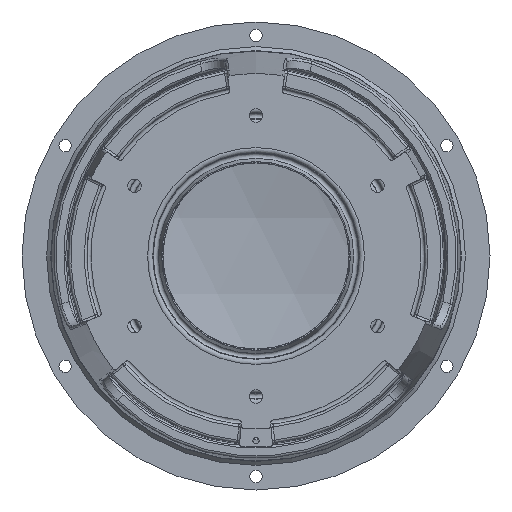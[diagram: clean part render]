
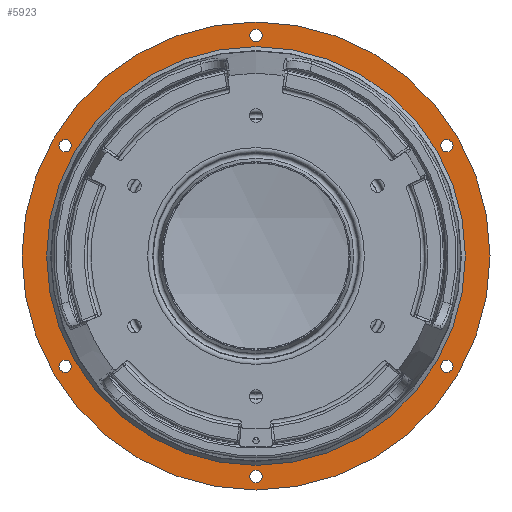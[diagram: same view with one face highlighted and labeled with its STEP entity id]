
A CAD part, front view. The second image highlights one B-rep face of the part: STEP entity #5923.
In plain terms, the highlighted planar face has unit normal (0, -1, 0).
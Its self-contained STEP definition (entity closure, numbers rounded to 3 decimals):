
#222 = CIRCLE ( 'NONE', #5616, 95. ) ;
#352 = EDGE_LOOP ( 'NONE', ( #468 ) ) ;
#468 = ORIENTED_EDGE ( 'NONE', *, *, #10245, .F. ) ;
#474 = AXIS2_PLACEMENT_3D ( 'NONE', #9182, #849, #10087 ) ;
#591 = ORIENTED_EDGE ( 'NONE', *, *, #6070, .F. ) ;
#652 = CARTESIAN_POINT ( 'NONE',  ( 0., 6.632, 92. ) ) ;
#676 = CARTESIAN_POINT ( 'NONE',  ( 77.509, 6.632, -44.75 ) ) ;
#836 = CARTESIAN_POINT ( 'NONE',  ( -77.509, 6.632, 44.75 ) ) ;
#849 = DIRECTION ( 'NONE',  ( 0., 1., 0. ) ) ;
#945 = VERTEX_POINT ( 'NONE', #11635 ) ;
#1176 = FACE_BOUND ( 'NONE', #11580, .T. ) ;
#1182 = CARTESIAN_POINT ( 'NONE',  ( 0., 6.632, 0. ) ) ;
#1219 = DIRECTION ( 'NONE',  ( 0., 1., 0. ) ) ;
#1343 = CARTESIAN_POINT ( 'NONE',  ( 77.509, 6.632, 44.75 ) ) ;
#1451 = CARTESIAN_POINT ( 'NONE',  ( 0., 6.632, 85. ) ) ;
#1583 = CIRCLE ( 'NONE', #6842, 2.5 ) ;
#1748 = DIRECTION ( 'NONE',  ( 0., 0., 1. ) ) ;
#1839 = CIRCLE ( 'NONE', #6117, 2.5 ) ;
#1855 = ORIENTED_EDGE ( 'NONE', *, *, #4478, .F. ) ;
#1880 = DIRECTION ( 'NONE',  ( 0., -1., 0. ) ) ;
#1975 = VERTEX_POINT ( 'NONE', #7706 ) ;
#2240 = EDGE_LOOP ( 'NONE', ( #5358 ) ) ;
#2254 = VERTEX_POINT ( 'NONE', #5161 ) ;
#2565 = ORIENTED_EDGE ( 'NONE', *, *, #9809, .F. ) ;
#2726 = AXIS2_PLACEMENT_3D ( 'NONE', #1343, #7755, #8703 ) ;
#2785 = ORIENTED_EDGE ( 'NONE', *, *, #7401, .F. ) ;
#2851 = DIRECTION ( 'NONE',  ( 0., -1., 0. ) ) ;
#2907 = FACE_BOUND ( 'NONE', #352, .T. ) ;
#3108 = ORIENTED_EDGE ( 'NONE', *, *, #3888, .F. ) ;
#3256 = CARTESIAN_POINT ( 'NONE',  ( 0., 6.632, -89.5 ) ) ;
#3358 = CARTESIAN_POINT ( 'NONE',  ( 77.509, 6.632, -42.25 ) ) ;
#3581 = PLANE ( 'NONE',  #474 ) ;
#3762 = EDGE_LOOP ( 'NONE', ( #3108 ) ) ;
#3888 = EDGE_CURVE ( 'NONE', #5301, #5301, #222, .T. ) ;
#4173 = DIRECTION ( 'NONE',  ( 0., 0., 1. ) ) ;
#4199 = CIRCLE ( 'NONE', #8969, 85. ) ;
#4478 = EDGE_CURVE ( 'NONE', #1975, #1975, #11571, .T. ) ;
#4628 = DIRECTION ( 'NONE',  ( 0., 0., 1. ) ) ;
#4811 = EDGE_LOOP ( 'NONE', ( #2565 ) ) ;
#4939 = CIRCLE ( 'NONE', #11729, 2.5 ) ;
#5048 = CARTESIAN_POINT ( 'NONE',  ( 0., 6.632, 95. ) ) ;
#5161 = CARTESIAN_POINT ( 'NONE',  ( 77.509, 6.632, 47.25 ) ) ;
#5292 = VERTEX_POINT ( 'NONE', #1451 ) ;
#5301 = VERTEX_POINT ( 'NONE', #5048 ) ;
#5358 = ORIENTED_EDGE ( 'NONE', *, *, #8407, .F. ) ;
#5359 = FACE_BOUND ( 'NONE', #2240, .T. ) ;
#5465 = DIRECTION ( 'NONE',  ( 0., 1., 0. ) ) ;
#5486 = CARTESIAN_POINT ( 'NONE',  ( -77.509, 6.632, -44.75 ) ) ;
#5616 = AXIS2_PLACEMENT_3D ( 'NONE', #1182, #1219, #9440 ) ;
#5776 = FACE_BOUND ( 'NONE', #11720, .T. ) ;
#5923 = ADVANCED_FACE ( 'NONE', ( #1176, #5359, #7918, #6329, #5776, #2907, #11383, #7489 ), #3581, .F. ) ;
#5981 = VERTEX_POINT ( 'NONE', #3358 ) ;
#6049 = DIRECTION ( 'NONE',  ( 0., -1., 0. ) ) ;
#6070 = EDGE_CURVE ( 'NONE', #2254, #2254, #9244, .T. ) ;
#6117 = AXIS2_PLACEMENT_3D ( 'NONE', #7378, #1880, #7419 ) ;
#6329 = FACE_BOUND ( 'NONE', #7913, .T. ) ;
#6416 = VERTEX_POINT ( 'NONE', #7022 ) ;
#6421 = CIRCLE ( 'NONE', #11451, 2.5 ) ;
#6842 = AXIS2_PLACEMENT_3D ( 'NONE', #676, #8760, #4173 ) ;
#7022 = CARTESIAN_POINT ( 'NONE',  ( -77.509, 6.632, 47.25 ) ) ;
#7378 = CARTESIAN_POINT ( 'NONE',  ( 0., 6.632, 89.5 ) ) ;
#7401 = EDGE_CURVE ( 'NONE', #6416, #6416, #4939, .T. ) ;
#7419 = DIRECTION ( 'NONE',  ( 0., 0., 1. ) ) ;
#7489 = FACE_BOUND ( 'NONE', #10246, .T. ) ;
#7706 = CARTESIAN_POINT ( 'NONE',  ( -77.509, 6.632, -42.25 ) ) ;
#7755 = DIRECTION ( 'NONE',  ( 0., -1., 0. ) ) ;
#7913 = EDGE_LOOP ( 'NONE', ( #1855 ) ) ;
#7918 = FACE_BOUND ( 'NONE', #4811, .T. ) ;
#8019 = DIRECTION ( 'NONE',  ( 0., 0., 1. ) ) ;
#8076 = EDGE_CURVE ( 'NONE', #5292, #5292, #4199, .T. ) ;
#8136 = VERTEX_POINT ( 'NONE', #652 ) ;
#8407 = EDGE_CURVE ( 'NONE', #5981, #5981, #1583, .T. ) ;
#8703 = DIRECTION ( 'NONE',  ( 0., 0., 1. ) ) ;
#8760 = DIRECTION ( 'NONE',  ( 0., -1., 0. ) ) ;
#8840 = DIRECTION ( 'NONE',  ( 0., 0., 1. ) ) ;
#8969 = AXIS2_PLACEMENT_3D ( 'NONE', #9256, #5465, #4628 ) ;
#9182 = CARTESIAN_POINT ( 'NONE',  ( -95., 6.632, 0. ) ) ;
#9244 = CIRCLE ( 'NONE', #2726, 2.5 ) ;
#9256 = CARTESIAN_POINT ( 'NONE',  ( 0., 6.632, 0. ) ) ;
#9261 = AXIS2_PLACEMENT_3D ( 'NONE', #5486, #2851, #1748 ) ;
#9440 = DIRECTION ( 'NONE',  ( 0., 0., 1. ) ) ;
#9809 = EDGE_CURVE ( 'NONE', #945, #945, #6421, .T. ) ;
#10087 = DIRECTION ( 'NONE',  ( 0., 0., 1. ) ) ;
#10245 = EDGE_CURVE ( 'NONE', #8136, #8136, #1839, .T. ) ;
#10246 = EDGE_LOOP ( 'NONE', ( #10750 ) ) ;
#10750 = ORIENTED_EDGE ( 'NONE', *, *, #8076, .T. ) ;
#10925 = DIRECTION ( 'NONE',  ( 0., -1., 0. ) ) ;
#11383 = FACE_OUTER_BOUND ( 'NONE', #3762, .T. ) ;
#11451 = AXIS2_PLACEMENT_3D ( 'NONE', #3256, #6049, #8840 ) ;
#11571 = CIRCLE ( 'NONE', #9261, 2.5 ) ;
#11580 = EDGE_LOOP ( 'NONE', ( #591 ) ) ;
#11635 = CARTESIAN_POINT ( 'NONE',  ( 0., 6.632, -87. ) ) ;
#11720 = EDGE_LOOP ( 'NONE', ( #2785 ) ) ;
#11729 = AXIS2_PLACEMENT_3D ( 'NONE', #836, #10925, #8019 ) ;
